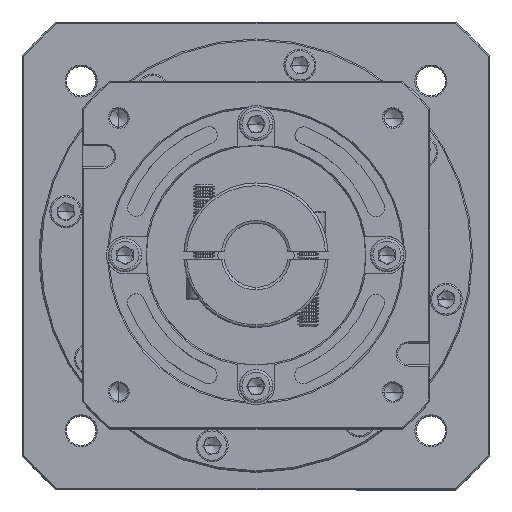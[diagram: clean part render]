
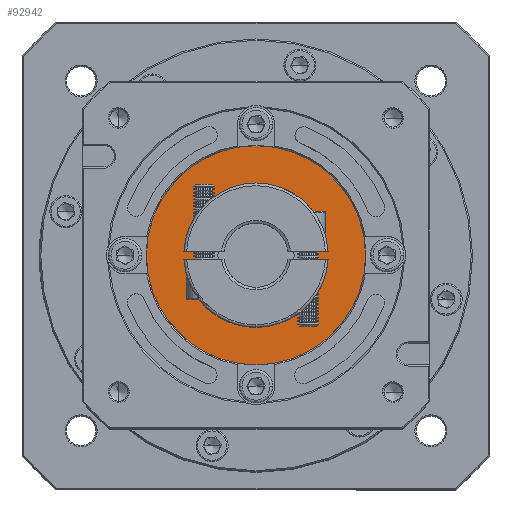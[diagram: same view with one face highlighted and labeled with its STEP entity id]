
A CAD part, top view. The second image highlights one B-rep face of the part: STEP entity #92942.
In plain terms, the highlighted planar face has unit normal (0, 0, 1).
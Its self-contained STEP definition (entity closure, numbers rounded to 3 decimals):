
#4508 = AXIS2_PLACEMENT_3D ( 'NONE', #48057, #6303, #47317 ) ;
#5040 = FACE_BOUND ( 'NONE', #9419, .T. ) ;
#6303 = DIRECTION ( 'NONE',  ( 0., 0., 1. ) ) ;
#6518 = EDGE_CURVE ( 'NONE', #88031, #58056, #18108, .T. ) ;
#9419 = EDGE_LOOP ( 'NONE', ( #50244, #60849 ) ) ;
#10290 = EDGE_CURVE ( 'NONE', #60172, #90391, #83218, .T. ) ;
#11149 = AXIS2_PLACEMENT_3D ( 'NONE', #96189, #28467, #53077 ) ;
#18108 = CIRCLE ( 'NONE', #4508, 41. ) ;
#22316 = CIRCLE ( 'NONE', #104187, 41. ) ;
#24638 = CIRCLE ( 'NONE', #90075, 20. ) ;
#26859 = DIRECTION ( 'NONE',  ( 0., 0., 1. ) ) ;
#27803 = CARTESIAN_POINT ( 'NONE',  ( -149.032, 61.212, -18.592 ) ) ;
#28467 = DIRECTION ( 'NONE',  ( 0., 0., -1. ) ) ;
#31325 = EDGE_CURVE ( 'NONE', #90391, #60172, #24638, .T. ) ;
#32751 = DIRECTION ( 'NONE',  ( 0., 0., 1. ) ) ;
#32793 = EDGE_LOOP ( 'NONE', ( #46434, #98764 ) ) ;
#36859 = CARTESIAN_POINT ( 'NONE',  ( -129.032, 61.212, -18.592 ) ) ;
#39458 = CARTESIAN_POINT ( 'NONE',  ( -170.032, 61.212, -18.592 ) ) ;
#41701 = CARTESIAN_POINT ( 'NONE',  ( -129.032, 61.212, -18.592 ) ) ;
#46434 = ORIENTED_EDGE ( 'NONE', *, *, #53564, .T. ) ;
#47317 = DIRECTION ( 'NONE',  ( 1., 0., 0. ) ) ;
#48057 = CARTESIAN_POINT ( 'NONE',  ( -129.032, 61.212, -18.592 ) ) ;
#49994 = AXIS2_PLACEMENT_3D ( 'NONE', #41701, #32751, #110314 ) ;
#50244 = ORIENTED_EDGE ( 'NONE', *, *, #31325, .T. ) ;
#53077 = DIRECTION ( 'NONE',  ( 1., 0., 0. ) ) ;
#53564 = EDGE_CURVE ( 'NONE', #58056, #88031, #22316, .T. ) ;
#58056 = VERTEX_POINT ( 'NONE', #68127 ) ;
#58806 = DIRECTION ( 'NONE',  ( 1., 0., 0. ) ) ;
#59552 = CARTESIAN_POINT ( 'NONE',  ( -129.032, 61.212, -18.592 ) ) ;
#59603 = PLANE ( 'NONE',  #49994 ) ;
#60172 = VERTEX_POINT ( 'NONE', #27803 ) ;
#60849 = ORIENTED_EDGE ( 'NONE', *, *, #10290, .T. ) ;
#66271 = CARTESIAN_POINT ( 'NONE',  ( -109.032, 61.212, -18.592 ) ) ;
#68127 = CARTESIAN_POINT ( 'NONE',  ( -88.032, 61.212, -18.592 ) ) ;
#83218 = CIRCLE ( 'NONE', #11149, 20. ) ;
#88031 = VERTEX_POINT ( 'NONE', #39458 ) ;
#90075 = AXIS2_PLACEMENT_3D ( 'NONE', #59552, #110620, #58806 ) ;
#90391 = VERTEX_POINT ( 'NONE', #66271 ) ;
#92942 = ADVANCED_FACE ( 'NONE', ( #93323, #5040 ), #59603, .T. ) ;
#93323 = FACE_OUTER_BOUND ( 'NONE', #32793, .T. ) ;
#96189 = CARTESIAN_POINT ( 'NONE',  ( -129.032, 61.212, -18.592 ) ) ;
#98764 = ORIENTED_EDGE ( 'NONE', *, *, #6518, .T. ) ;
#103533 = DIRECTION ( 'NONE',  ( 1., 0., 0. ) ) ;
#104187 = AXIS2_PLACEMENT_3D ( 'NONE', #36859, #26859, #103533 ) ;
#110314 = DIRECTION ( 'NONE',  ( 1., 0., 0. ) ) ;
#110620 = DIRECTION ( 'NONE',  ( 0., 0., -1. ) ) ;
